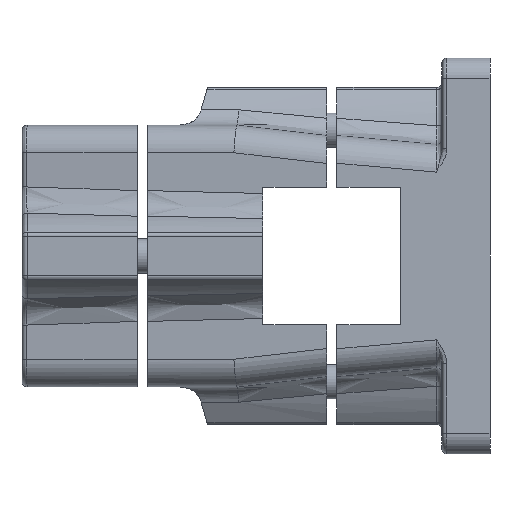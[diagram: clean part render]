
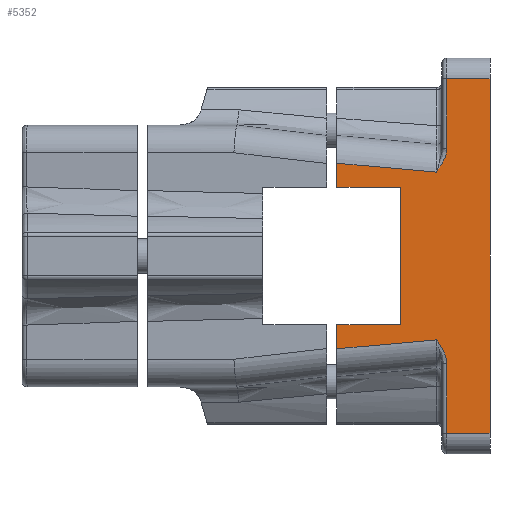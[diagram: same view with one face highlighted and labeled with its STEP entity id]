
A CAD part, left-side view. The second image highlights one B-rep face of the part: STEP entity #5352.
In plain terms, the highlighted planar face has unit normal (-1, 0, 0).
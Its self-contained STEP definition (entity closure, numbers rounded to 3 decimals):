
#25 = CARTESIAN_POINT ( 'NONE',  ( -38., -30.5, 24.371 ) ) ;
#118 = VECTOR ( 'NONE', #16141, 1000. ) ;
#132 = CARTESIAN_POINT ( 'NONE',  ( -38., -33.5, 31.327 ) ) ;
#193 = CARTESIAN_POINT ( 'NONE',  ( -38., -20., 20. ) ) ;
#264 = CARTESIAN_POINT ( 'NONE',  ( -38., 0., 20. ) ) ;
#417 = VERTEX_POINT ( 'NONE', #15478 ) ;
#679 = VECTOR ( 'NONE', #10203, 1000. ) ;
#1438 = VERTEX_POINT ( 'NONE', #9567 ) ;
#1497 = CARTESIAN_POINT ( 'NONE',  ( -38., -1.5, 26.968 ) ) ;
#1565 = CARTESIAN_POINT ( 'NONE',  ( -38., -30.5, 24.371 ) ) ;
#1569 = CARTESIAN_POINT ( 'NONE',  ( -38., -32., 51.5 ) ) ;
#1681 = VECTOR ( 'NONE', #11574, 1000. ) ;
#1688 = EDGE_CURVE ( 'NONE', #13906, #8014, #16638, .T. ) ;
#1702 = VECTOR ( 'NONE', #6736, 1000. ) ;
#1875 = CARTESIAN_POINT ( 'NONE',  ( -38., -33.015, -28.805 ) ) ;
#2009 = CARTESIAN_POINT ( 'NONE',  ( -38., -33.5, -31.327 ) ) ;
#2046 = CARTESIAN_POINT ( 'NONE',  ( -38., -30.858, -24.901 ) ) ;
#2111 = ORIENTED_EDGE ( 'NONE', *, *, #7766, .T. ) ;
#2350 = CARTESIAN_POINT ( 'NONE',  ( -38., -1.5, 20. ) ) ;
#2524 = EDGE_CURVE ( 'NONE', #15545, #8430, #7372, .T. ) ;
#2827 = CARTESIAN_POINT ( 'NONE',  ( -38., -33.015, 28.805 ) ) ;
#2871 = ORIENTED_EDGE ( 'NONE', *, *, #2883, .T. ) ;
#2883 = EDGE_CURVE ( 'NONE', #14560, #15163, #4125, .T. ) ;
#2977 = EDGE_CURVE ( 'NONE', #13906, #417, #8673, .T. ) ;
#3141 = CARTESIAN_POINT ( 'NONE',  ( -38., -33.391, -30.043 ) ) ;
#3259 = ORIENTED_EDGE ( 'NONE', *, *, #4629, .T. ) ;
#3312 = CARTESIAN_POINT ( 'NONE',  ( -38., -33.123, -29.112 ) ) ;
#3729 = LINE ( 'NONE', #4927, #6510 ) ;
#3852 = CARTESIAN_POINT ( 'NONE',  ( -38., -20., -20. ) ) ;
#3933 = CARTESIAN_POINT ( 'NONE',  ( -38., -33.5, 30.676 ) ) ;
#4125 = LINE ( 'NONE', #5566, #1702 ) ;
#4240 = EDGE_CURVE ( 'NONE', #417, #15765, #14332, .T. ) ;
#4466 = CARTESIAN_POINT ( 'NONE',  ( -38., -2.408, -26.887 ) ) ;
#4477 = VECTOR ( 'NONE', #11885, 1000. ) ;
#4629 = EDGE_CURVE ( 'NONE', #8061, #9766, #5993, .T. ) ;
#4661 = CARTESIAN_POINT ( 'NONE',  ( -38., -30.678, -24.635 ) ) ;
#4854 = FACE_OUTER_BOUND ( 'NONE', #9341, .T. ) ;
#4917 = LINE ( 'NONE', #12767, #1681 ) ;
#4927 = CARTESIAN_POINT ( 'NONE',  ( -38., -33.5, 0. ) ) ;
#5102 = EDGE_CURVE ( 'NONE', #15163, #10538, #6211, .T. ) ;
#5352 = ADVANCED_FACE ( 'NONE', ( #4854 ), #7222, .F. ) ;
#5380 = VERTEX_POINT ( 'NONE', #193 ) ;
#5481 = VECTOR ( 'NONE', #16039, 1000. ) ;
#5540 = ORIENTED_EDGE ( 'NONE', *, *, #14325, .F. ) ;
#5551 = LINE ( 'NONE', #1569, #4477 ) ;
#5566 = CARTESIAN_POINT ( 'NONE',  ( -38., -33.5, 0. ) ) ;
#5677 = CARTESIAN_POINT ( 'NONE',  ( -38., -32.643, -27.919 ) ) ;
#5837 = CARTESIAN_POINT ( 'NONE',  ( -38., -2.408, 26.887 ) ) ;
#5993 = LINE ( 'NONE', #13516, #12568 ) ;
#6012 = CARTESIAN_POINT ( 'NONE',  ( -38., -32.776, -28.21 ) ) ;
#6211 = B_SPLINE_CURVE_WITH_KNOTS ( 'NONE', 3,
 ( #132, #3933, #14490, #7897, #2827, #6638, #12818, #7992, #9163, #15768, #13147, #1565 ),
 .UNSPECIFIED., .F., .F.,
 ( 4, 2, 2, 2, 2, 4 ),
 ( 0., 0.002, 0.003, 0.004, 0.006, 0.008 ),
 .UNSPECIFIED. ) ;
#6417 = CARTESIAN_POINT ( 'NONE',  ( -38., 0., -20. ) ) ;
#6439 = DIRECTION ( 'NONE',  ( 0., -1., 0. ) ) ;
#6510 = VECTOR ( 'NONE', #16575, 1000. ) ;
#6638 = CARTESIAN_POINT ( 'NONE',  ( -38., -32.776, 28.21 ) ) ;
#6670 = EDGE_CURVE ( 'NONE', #15545, #5380, #11858, .T. ) ;
#6736 = DIRECTION ( 'NONE',  ( 0., 0., -1. ) ) ;
#6799 = ORIENTED_EDGE ( 'NONE', *, *, #13822, .T. ) ;
#7044 = ORIENTED_EDGE ( 'NONE', *, *, #13951, .T. ) ;
#7197 = CARTESIAN_POINT ( 'NONE',  ( -38., -32.218, -27.062 ) ) ;
#7222 = PLANE ( 'NONE',  #9717 ) ;
#7372 = LINE ( 'NONE', #16501, #14363 ) ;
#7469 = DIRECTION ( 'NONE',  ( 0., 0., -1. ) ) ;
#7766 = EDGE_CURVE ( 'NONE', #15765, #8061, #3729, .T. ) ;
#7897 = CARTESIAN_POINT ( 'NONE',  ( -38., -33.123, 29.112 ) ) ;
#7940 = DIRECTION ( 'NONE',  ( 0., 0., 1. ) ) ;
#7992 = CARTESIAN_POINT ( 'NONE',  ( -38., -32.218, 27.062 ) ) ;
#8014 = VERTEX_POINT ( 'NONE', #12352 ) ;
#8061 = VERTEX_POINT ( 'NONE', #16307 ) ;
#8210 = ORIENTED_EDGE ( 'NONE', *, *, #5102, .T. ) ;
#8378 = CARTESIAN_POINT ( 'NONE',  ( -38., -31.212, -25.434 ) ) ;
#8430 = VERTEX_POINT ( 'NONE', #1497 ) ;
#8546 = CARTESIAN_POINT ( 'NONE',  ( -38., -33.5, -30.676 ) ) ;
#8556 = VECTOR ( 'NONE', #9186, 1000. ) ;
#8654 = CARTESIAN_POINT ( 'NONE',  ( -38., 0., 0. ) ) ;
#8673 = LINE ( 'NONE', #4466, #5481 ) ;
#9163 = CARTESIAN_POINT ( 'NONE',  ( -38., -31.896, 26.512 ) ) ;
#9186 = DIRECTION ( 'NONE',  ( 0., 0., 1. ) ) ;
#9200 = VECTOR ( 'NONE', #7940, 1000. ) ;
#9201 = CARTESIAN_POINT ( 'NONE',  ( -38., -46., -51.5 ) ) ;
#9341 = EDGE_LOOP ( 'NONE', ( #14784, #7044, #10257, #9382, #15953, #2111, #3259, #9448, #5540, #2871, #8210, #6799, #10717, #14651 ) ) ;
#9382 = ORIENTED_EDGE ( 'NONE', *, *, #2977, .T. ) ;
#9448 = ORIENTED_EDGE ( 'NONE', *, *, #16561, .T. ) ;
#9567 = CARTESIAN_POINT ( 'NONE',  ( -38., -46., 51.5 ) ) ;
#9594 = EDGE_CURVE ( 'NONE', #5380, #14214, #4917, .T. ) ;
#9717 = AXIS2_PLACEMENT_3D ( 'NONE', #8654, #13891, #7469 ) ;
#9766 = VERTEX_POINT ( 'NONE', #9201 ) ;
#10203 = DIRECTION ( 'NONE',  ( 0., 1., 0. ) ) ;
#10257 = ORIENTED_EDGE ( 'NONE', *, *, #1688, .F. ) ;
#10447 = LINE ( 'NONE', #14181, #8556 ) ;
#10538 = VERTEX_POINT ( 'NONE', #25 ) ;
#10717 = ORIENTED_EDGE ( 'NONE', *, *, #2524, .F. ) ;
#10825 = CARTESIAN_POINT ( 'NONE',  ( -38., -31.386, -25.701 ) ) ;
#11574 = DIRECTION ( 'NONE',  ( 0., 0., -1. ) ) ;
#11858 = LINE ( 'NONE', #264, #16205 ) ;
#11885 = DIRECTION ( 'NONE',  ( 0., -1., 0. ) ) ;
#12352 = CARTESIAN_POINT ( 'NONE',  ( -38., -1.5, -20. ) ) ;
#12568 = VECTOR ( 'NONE', #15973, 1000. ) ;
#12767 = CARTESIAN_POINT ( 'NONE',  ( -38., -20., 0. ) ) ;
#12818 = CARTESIAN_POINT ( 'NONE',  ( -38., -32.643, 27.919 ) ) ;
#13147 = CARTESIAN_POINT ( 'NONE',  ( -38., -30.859, 24.903 ) ) ;
#13516 = CARTESIAN_POINT ( 'NONE',  ( -38., -32., -51.5 ) ) ;
#13535 = CARTESIAN_POINT ( 'NONE',  ( -38., -33.5, -31.327 ) ) ;
#13822 = EDGE_CURVE ( 'NONE', #10538, #8430, #13853, .T. ) ;
#13853 = LINE ( 'NONE', #5837, #118 ) ;
#13891 = DIRECTION ( 'NONE',  ( 1., 0., 0. ) ) ;
#13906 = VERTEX_POINT ( 'NONE', #14096 ) ;
#13951 = EDGE_CURVE ( 'NONE', #14214, #8014, #14343, .T. ) ;
#14096 = CARTESIAN_POINT ( 'NONE',  ( -38., -1.5, -26.968 ) ) ;
#14181 = CARTESIAN_POINT ( 'NONE',  ( -38., -46., 51.5 ) ) ;
#14214 = VERTEX_POINT ( 'NONE', #3852 ) ;
#14247 = CARTESIAN_POINT ( 'NONE',  ( -38., -33.5, 31.327 ) ) ;
#14325 = EDGE_CURVE ( 'NONE', #14560, #1438, #5551, .T. ) ;
#14332 = B_SPLINE_CURVE_WITH_KNOTS ( 'NONE', 3,
 ( #16318, #4661, #2046, #8378, #10825, #14970, #7197, #5677, #6012, #1875, #3312, #3141, #8546, #13535 ),
 .UNSPECIFIED., .F., .F.,
 ( 4, 2, 2, 2, 2, 2, 4 ),
 ( 0., 0.001, 0.002, 0.004, 0.005, 0.006, 0.008 ),
 .UNSPECIFIED. ) ;
#14343 = LINE ( 'NONE', #6417, #679 ) ;
#14363 = VECTOR ( 'NONE', #15322, 1000. ) ;
#14490 = CARTESIAN_POINT ( 'NONE',  ( -38., -33.391, 30.043 ) ) ;
#14560 = VERTEX_POINT ( 'NONE', #16514 ) ;
#14604 = CARTESIAN_POINT ( 'NONE',  ( -38., -1.5, -35. ) ) ;
#14651 = ORIENTED_EDGE ( 'NONE', *, *, #6670, .T. ) ;
#14784 = ORIENTED_EDGE ( 'NONE', *, *, #9594, .T. ) ;
#14970 = CARTESIAN_POINT ( 'NONE',  ( -38., -31.896, -26.512 ) ) ;
#15163 = VERTEX_POINT ( 'NONE', #14247 ) ;
#15322 = DIRECTION ( 'NONE',  ( 0., 0., 1. ) ) ;
#15478 = CARTESIAN_POINT ( 'NONE',  ( -38., -30.5, -24.371 ) ) ;
#15545 = VERTEX_POINT ( 'NONE', #2350 ) ;
#15765 = VERTEX_POINT ( 'NONE', #2009 ) ;
#15768 = CARTESIAN_POINT ( 'NONE',  ( -38., -31.216, 25.431 ) ) ;
#15953 = ORIENTED_EDGE ( 'NONE', *, *, #4240, .T. ) ;
#15973 = DIRECTION ( 'NONE',  ( 0., -1., 0. ) ) ;
#16039 = DIRECTION ( 'NONE',  ( 0., -0.996, 0.089 ) ) ;
#16141 = DIRECTION ( 'NONE',  ( 0., 0.996, 0.089 ) ) ;
#16205 = VECTOR ( 'NONE', #6439, 1000. ) ;
#16307 = CARTESIAN_POINT ( 'NONE',  ( -38., -33.5, -51.5 ) ) ;
#16318 = CARTESIAN_POINT ( 'NONE',  ( -38., -30.5, -24.371 ) ) ;
#16501 = CARTESIAN_POINT ( 'NONE',  ( -38., -1.5, -35. ) ) ;
#16514 = CARTESIAN_POINT ( 'NONE',  ( -38., -33.5, 51.5 ) ) ;
#16561 = EDGE_CURVE ( 'NONE', #9766, #1438, #10447, .T. ) ;
#16575 = DIRECTION ( 'NONE',  ( 0., 0., -1. ) ) ;
#16638 = LINE ( 'NONE', #14604, #9200 ) ;
